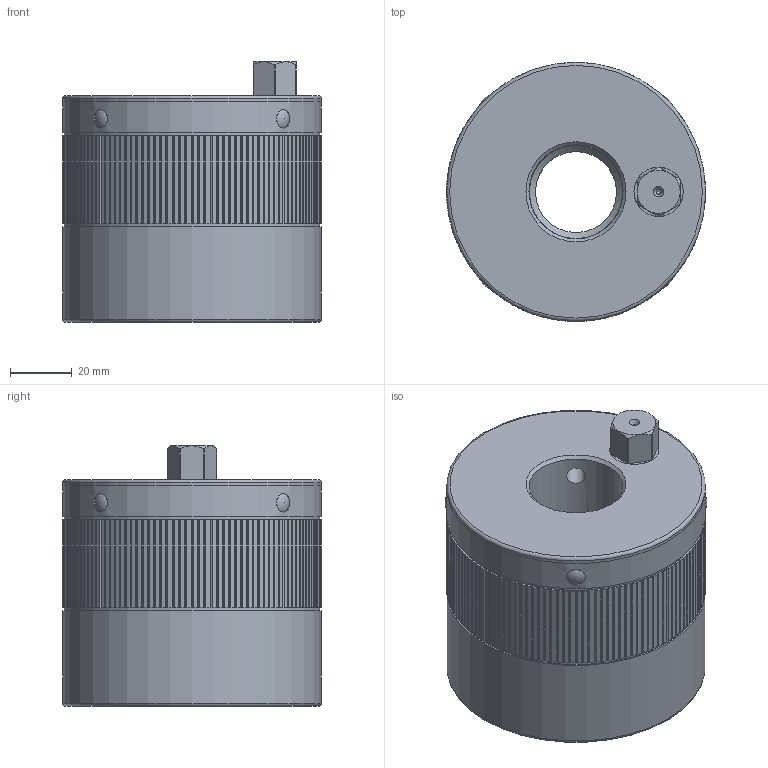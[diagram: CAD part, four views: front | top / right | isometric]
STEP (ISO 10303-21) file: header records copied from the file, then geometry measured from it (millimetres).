
FILE_DESCRIPTION(/* description */ ('Unknown','CAx-IF Rec.Pracs.---Representation and Presentation of Product Manufacturing Information (PMI)---4.0---2014-10-13','CAx-IF Rec.Pracs.---3D Tessellated Geometry---0.4---2014-09-14','2;1'),/* implementation_level */ '2;1');
FILE_NAME(/* name */ 'MDA 120_SW14_M30',/* time_stamp */ '2023-09-15T11:05:52+02:00',/* author */ ('Unknown'),/* organization */ ('Unknown'),/* preprocessor_version */ 'ST-DEVELOPER v18.102',/* originating_system */ 'Solid Edge',/* authorisation */ 'Unknown');
FILE_SCHEMA (('AP242_MANAGED_MODEL_BASED_3D_ENGINEERING_MIM_LF { 1 0 10303 442 1 1 4 }'));
Length unit declared in the file: millimetre
Products named in the file (7): 05933050; 43733046; 42231915; 46432086; KT100003; KT101191; 46331550
Assembly tree (9 placements, depth 2):
  05933050
    43733046
    42231915
    46432086
    KT100003  x4
    KT101191
    46331550
Bounding box: 84 x 84 x 84.5 mm (x, y, z)
Volume: 347991.4 mm3; surface area: 106665.4 mm2
Topology: 9 solids, 9 shells, 511 faces, 1439 edges, 949 vertices
Faces by surface type: plane 290, cylinder 167, cone 30, torus 10, sphere 8, bspline 6
Full cylindrical faces by diameter (mm): 1.6 x2, 6 x12, 16 x2, 16.5 x1, 26.211 x1, 30.5 x1, 48 x3, 66.2 x1, 71 x1, 74 x1, 76.5 x1, 76.9 x1, 77 x3, 83 x2, 84 x3
Entity records: 16352 total; most frequent: CARTESIAN_POINT 3353, DIRECTION 2638, ORIENTED_EDGE 2630, EDGE_CURVE 1315, LINE 918, VECTOR 918, VERTEX_POINT 911, AXIS2_PLACEMENT_3D 860
